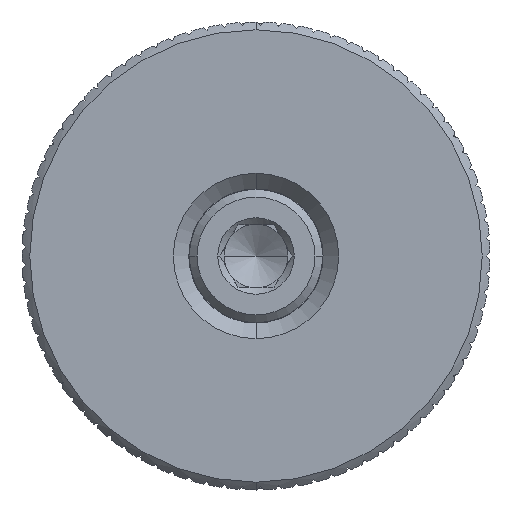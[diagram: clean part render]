
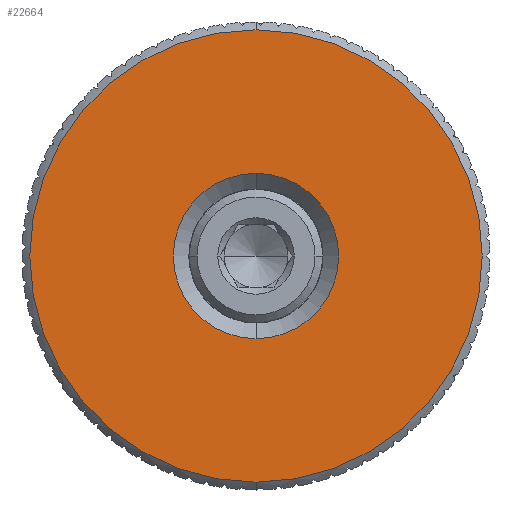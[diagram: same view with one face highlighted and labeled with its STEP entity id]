
A CAD part, left-side view. The second image highlights one B-rep face of the part: STEP entity #22664.
In plain terms, the highlighted planar face has unit normal (-1, 0, 0).
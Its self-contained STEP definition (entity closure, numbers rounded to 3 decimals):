
#1404 = FACE_BOUND ( 'NONE', #15214, .T. ) ;
#1726 = AXIS2_PLACEMENT_3D ( 'NONE', #40053, #21068, #2060 ) ;
#2060 = DIRECTION ( 'NONE',  ( 0., 0., -1. ) ) ;
#2720 = DIRECTION ( 'NONE',  ( 0., 0., -1. ) ) ;
#3036 = CARTESIAN_POINT ( 'NONE',  ( -31.25, 0., 0. ) ) ;
#5829 = CARTESIAN_POINT ( 'NONE',  ( -31.25, 0., -14.5 ) ) ;
#6229 = DIRECTION ( 'NONE',  ( 0., 0., -1. ) ) ;
#6586 = CIRCLE ( 'NONE', #14672, 14.5 ) ;
#7762 = ORIENTED_EDGE ( 'NONE', *, *, #23245, .T. ) ;
#8499 = ORIENTED_EDGE ( 'NONE', *, *, #21260, .T. ) ;
#9741 = DIRECTION ( 'NONE',  ( 1., 0., 0. ) ) ;
#10413 = EDGE_CURVE ( 'NONE', #11152, #34691, #36059, .T. ) ;
#11152 = VERTEX_POINT ( 'NONE', #40125 ) ;
#13477 = AXIS2_PLACEMENT_3D ( 'NONE', #40667, #21689, #2720 ) ;
#14672 = AXIS2_PLACEMENT_3D ( 'NONE', #14844, #36980, #18005 ) ;
#14844 = CARTESIAN_POINT ( 'NONE',  ( -31.25, 0., 0. ) ) ;
#15214 = EDGE_LOOP ( 'NONE', ( #23031, #7762 ) ) ;
#18005 = DIRECTION ( 'NONE',  ( 0., 0., -1. ) ) ;
#18260 = FACE_OUTER_BOUND ( 'NONE', #32182, .T. ) ;
#21068 = DIRECTION ( 'NONE',  ( 1., 0., 0. ) ) ;
#21260 = EDGE_CURVE ( 'NONE', #22510, #36774, #6586, .T. ) ;
#21689 = DIRECTION ( 'NONE',  ( 1., 0., 0. ) ) ;
#22510 = VERTEX_POINT ( 'NONE', #25354 ) ;
#22664 = ADVANCED_FACE ( 'NONE', ( #18260, #1404 ), #33513, .F. ) ;
#23031 = ORIENTED_EDGE ( 'NONE', *, *, #10413, .T. ) ;
#23245 = EDGE_CURVE ( 'NONE', #34691, #11152, #30543, .T. ) ;
#25188 = DIRECTION ( 'NONE',  ( -1., 0., 0. ) ) ;
#25354 = CARTESIAN_POINT ( 'NONE',  ( -31.25, 0., 14.5 ) ) ;
#25856 = EDGE_CURVE ( 'NONE', #36774, #22510, #39162, .T. ) ;
#28263 = CARTESIAN_POINT ( 'NONE',  ( -31.25, 0., -5.3 ) ) ;
#28674 = CARTESIAN_POINT ( 'NONE',  ( -31.25, 0., 0. ) ) ;
#30543 = CIRCLE ( 'NONE', #13477, 5.3 ) ;
#31846 = DIRECTION ( 'NONE',  ( 0., 0., -1. ) ) ;
#32182 = EDGE_LOOP ( 'NONE', ( #39072, #8499 ) ) ;
#33513 = PLANE ( 'NONE',  #1726 ) ;
#34691 = VERTEX_POINT ( 'NONE', #28263 ) ;
#36059 = CIRCLE ( 'NONE', #39768, 5.3 ) ;
#36774 = VERTEX_POINT ( 'NONE', #5829 ) ;
#36980 = DIRECTION ( 'NONE',  ( -1., 0., 0. ) ) ;
#37702 = AXIS2_PLACEMENT_3D ( 'NONE', #3036, #25188, #6229 ) ;
#39072 = ORIENTED_EDGE ( 'NONE', *, *, #25856, .T. ) ;
#39162 = CIRCLE ( 'NONE', #37702, 14.5 ) ;
#39768 = AXIS2_PLACEMENT_3D ( 'NONE', #28674, #9741, #31846 ) ;
#40053 = CARTESIAN_POINT ( 'NONE',  ( -31.25, 5.3, 0. ) ) ;
#40125 = CARTESIAN_POINT ( 'NONE',  ( -31.25, 0., 5.3 ) ) ;
#40667 = CARTESIAN_POINT ( 'NONE',  ( -31.25, 0., 0. ) ) ;
